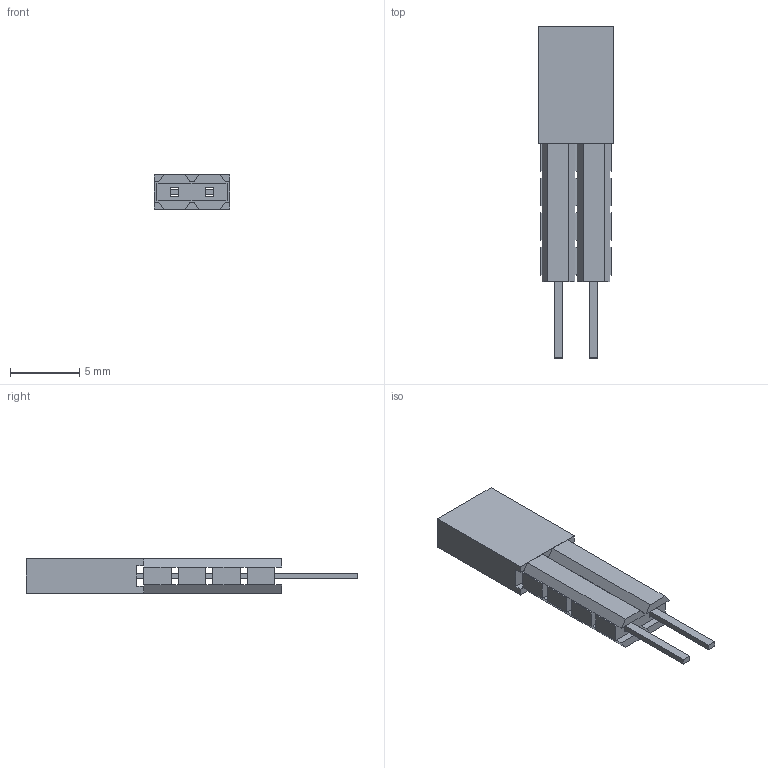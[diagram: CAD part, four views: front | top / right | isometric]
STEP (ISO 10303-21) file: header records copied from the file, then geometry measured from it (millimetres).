
FILE_DESCRIPTION(/* description */ (''),/* implementation_level */ '2;1');
FILE_NAME(/* name */ 'PM254-1-02-Z-C18.5-XX-4LP(L24.0)(2.54 单排 排母 直针 加4层塑胶-HCTL).stp',/* time_stamp */ '2026-10-24T15:04:17+08:00',/* author */ (''),/* organization */ (''),/* preprocessor_version */ 'ST-DEVELOPER v16',/* originating_system */ 'SIEMENS PLM Software NX 10.0',/* authorisation */ '');
FILE_SCHEMA (('AUTOMOTIVE_DESIGN { 1 0 10303 214 3 1 1 1 }'));
Length unit declared in the file: millimetre
Products named in the file (1): PM254-1-N-Z-C18.5-XX-4LP_L24.0__2.54 单排 排母 
直针 加4层塑胶-HCTL__step
Bounding box: 5.48 x 24 x 2.5 mm (x, y, z)
Volume: 207.8 mm3; surface area: 539.2 mm2
Topology: 2 solids, 2 shells, 142 faces, 408 edges, 248 vertices
Faces by surface type: plane 142
Entity records: 4569 total; most frequent: ORIENTED_EDGE 816, CARTESIAN_POINT 799, DIRECTION 694, EDGE_CURVE 408, LINE 408, VECTOR 408, VERTEX_POINT 248, EDGE_LOOP 162
